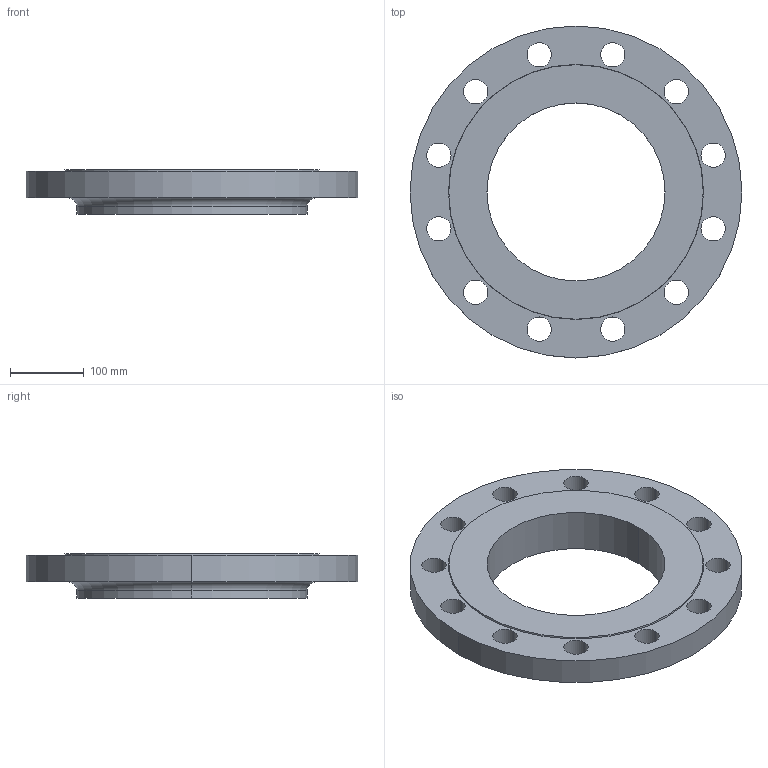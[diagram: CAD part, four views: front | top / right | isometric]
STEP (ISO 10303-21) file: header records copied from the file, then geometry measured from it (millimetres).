
FILE_DESCRIPTION (( 'STEP AP214' ), '1' );
FILE_NAME ('PN40 DN250 Type 13 - Type B Face.STEP', '2019-01-05T16:00:25', ( '' ), ( '' ), 'SwSTEP 2.0', 'SolidWorks 2019', '' );
FILE_SCHEMA (( 'AUTOMOTIVE_DESIGN' ));
Length unit declared in the file: millimetre
Products named in the file (1): PN40 DN250 Type 13 - Type B Face
Bounding box: 450 x 450 x 60 mm (x, y, z)
Volume: 4511473.5 mm3; surface area: 365640.3 mm2
Topology: 1 solids, 1 shells, 38 faces, 100 edges, 66 vertices
Faces by surface type: cylinder 30, plane 4, torus 2, cone 2
Entity records: 1302 total; most frequent: DIRECTION 246, CARTESIAN_POINT 205, ORIENTED_EDGE 200, AXIS2_PLACEMENT_3D 107, EDGE_CURVE 100, CIRCLE 68, VERTEX_POINT 66, EDGE_LOOP 66
